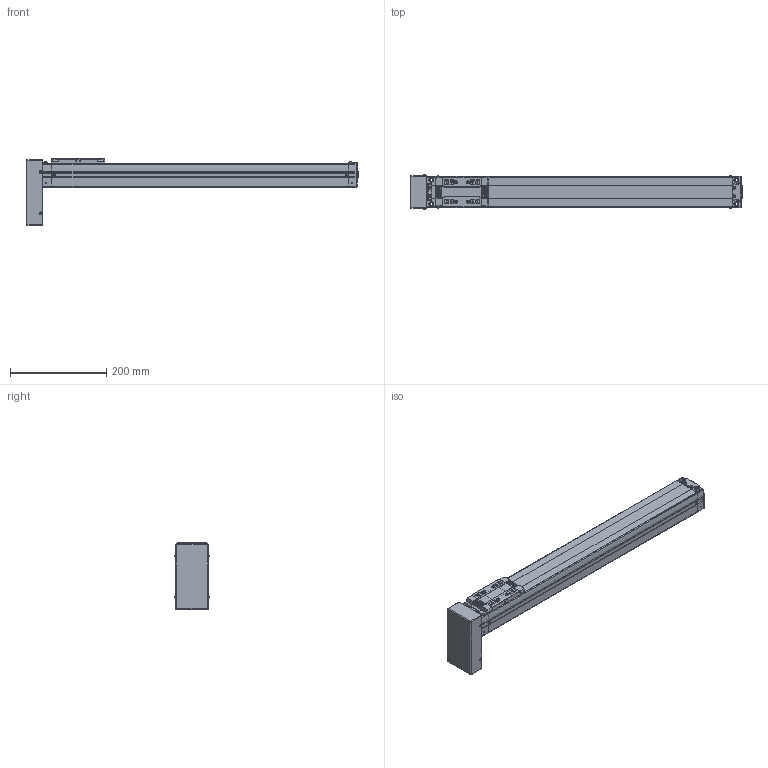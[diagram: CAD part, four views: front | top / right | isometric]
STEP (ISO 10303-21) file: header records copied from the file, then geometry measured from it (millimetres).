
FILE_DESCRIPTION(('STEP AP214'),'1');
FILE_NAME('Z:/Web/3D/SAN65/STP/SAN65ㅁㅁ-500PB.stp','2012-06-14T06:22:21',(' '),(' '),'Spatial InterOp 3D',' ',' ');
FILE_SCHEMA(('automotive_design'));
Length unit declared in the file: metre
Products named in the file (34): SAN65__-500; BODY-SAN65; REAR-SAN65; RRCV-SAN65; 스크루 : Round - M3.0 x 6.0; FRONT-SAN65; SHAFT-SAN65; RN8 x 0.75; SSFX-SAN65; SLIDE-SAN65; SLCV-SAN65; 스크루 : Countersunk - M3.0 x 6.0; ____198; PB; BTCV-SAN65; M3.0 x 6.0
Assembly tree (33 placements, depth 4):
  ____198
    SAN65__-500
      BODY-SAN65
      REAR-SAN65
        REAR-SAN65
        RRCV-SAN65
        스크루 : Round - M3.0 x 6.0
        스크루 : Round - M3.0 x 6.0
        스크루 : Round - M3.0 x 6.0
        스크루 : Round - M3.0 x 6.0
        스크루 : Round - M3.0 x 6.0
        스크루 : Round - M3.0 x 6.0
      FRONT-SAN65
        FRONT-SAN65
        SHAFT-SAN65
        RN8 x 0.75
        SSFX-SAN65
        스크루 : Round - M3.0 x 6.0
        스크루 : Round - M3.0 x 6.0
        스크루 : Round - M3.0 x 6.0
        스크루 : Round - M3.0 x 6.0
      SLIDE-SAN65
        SLIDE-SAN65
        SLCV-SAN65
        스크루 : Countersunk - M3.0 x 6.0
        스크루 : Countersunk - M3.0 x 6.0
        스크루 : Countersunk - M3.0 x 6.0
        스크루 : Countersunk - M3.0 x 6.0
    PB
      BTCV-SAN65
      M3.0 x 6.0
      M3.0 x 6.0
      M3.0 x 6.0
      M3.0 x 6.0
Bounding box: 690.15 x 71.13 x 138.5 mm (x, y, z)
Volume: 2393576.7 mm3; surface area: 270884.6 mm2
Topology: 28 solids, 28 shells, 1482 faces, 3793 edges, 2464 vertices
Faces by surface type: plane 892, cylinder 427, cone 89, bspline 30, sphere 26, torus 15, extrusion 3
Full cylindrical faces by diameter (mm): 0.571 x2, 0.706 x1, 1.727 x2, 2.132 x1, 2.2 x4, 2.5 x9, 2.528 x4, 3 x6, 3.121 x2, 3.3 x4, 3.4 x8, 3.5 x6, 4.2 x36, 4.849 x4, 5 x2, 5.5 x4, 5.987 x2, 6 x6, 6.35 x1, 7 x1, 8 x4, 9.5 x4, 13 x1, 15 x1, 19 x1, 26 x1, 38.1 x1
Entity records: 60388 total; most frequent: CARTESIAN_POINT 12404, DIRECTION 7419, ORIENTED_EDGE 6960, EDGE_CURVE 3480, AXIS2_PLACEMENT_3D 2541, VERTEX_POINT 2410, VECTOR 2337, LINE 2334
